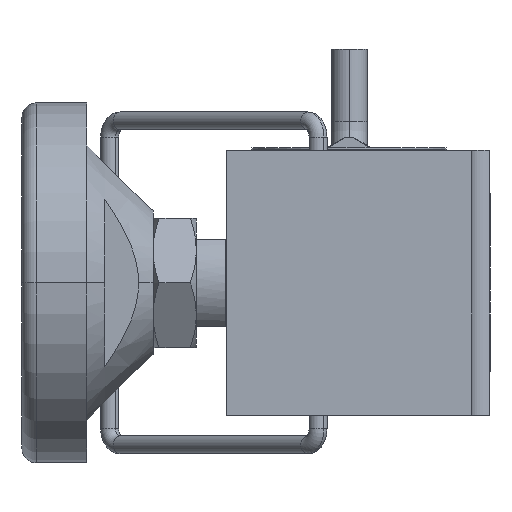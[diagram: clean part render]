
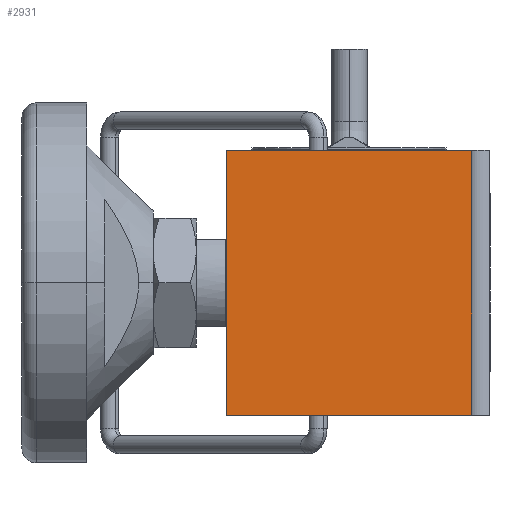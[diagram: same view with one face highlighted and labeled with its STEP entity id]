
A CAD part, left-side view. The second image highlights one B-rep face of the part: STEP entity #2931.
In plain terms, the highlighted planar face has unit normal (-1, 0, 0).
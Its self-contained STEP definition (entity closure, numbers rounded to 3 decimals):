
#841=DIRECTION('',(0.,1.,0.));
#842=VECTOR('',#841,34.036);
#843=CARTESIAN_POINT('',(0.,2.54,18.39));
#844=LINE('',#843,#842);
#952=DIRECTION('',(0.,1.,0.));
#953=VECTOR('',#952,34.036);
#954=CARTESIAN_POINT('',(0.,2.54,-18.39));
#955=LINE('',#954,#953);
#956=DIRECTION('',(0.,0.,-1.));
#957=VECTOR('',#956,36.779);
#958=CARTESIAN_POINT('',(0.,2.54,18.39));
#959=LINE('',#958,#957);
#964=DIRECTION('',(0.,0.,-1.));
#965=VECTOR('',#964,36.779);
#966=CARTESIAN_POINT('',(0.,36.576,18.39));
#967=LINE('',#966,#965);
#1494=CARTESIAN_POINT('',(0.,2.54,-18.39));
#1496=VERTEX_POINT('',#1494);
#1503=CARTESIAN_POINT('',(0.,36.576,-18.39));
#1504=VERTEX_POINT('',#1503);
#1563=CARTESIAN_POINT('',(0.,2.54,18.39));
#1564=VERTEX_POINT('',#1563);
#1565=CARTESIAN_POINT('',(0.,36.576,18.39));
#1566=VERTEX_POINT('',#1565);
#2919=CARTESIAN_POINT('',(0.,36.576,-18.39));
#2920=DIRECTION('',(-1.,0.,0.));
#2921=DIRECTION('',(0.,-1.,0.));
#2922=AXIS2_PLACEMENT_3D('',#2919,#2920,#2921);
#2923=PLANE('',#2922);
#2924=ORIENTED_EDGE('',*,*,#2889,.T.);
#2926=ORIENTED_EDGE('',*,*,#2925,.F.);
#2927=ORIENTED_EDGE('',*,*,#2810,.F.);
#2928=ORIENTED_EDGE('',*,*,#2913,.T.);
#2929=EDGE_LOOP('',(#2924,#2926,#2927,#2928));
#2930=FACE_OUTER_BOUND('',#2929,.F.);
#2931=ADVANCED_FACE('',(#2930),#2923,.T.);
#2810=EDGE_CURVE('',#1564,#1566,#844,.T.);
#2889=EDGE_CURVE('',#1496,#1504,#955,.T.);
#2913=EDGE_CURVE('',#1564,#1496,#959,.T.);
#2925=EDGE_CURVE('',#1566,#1504,#967,.T.);
